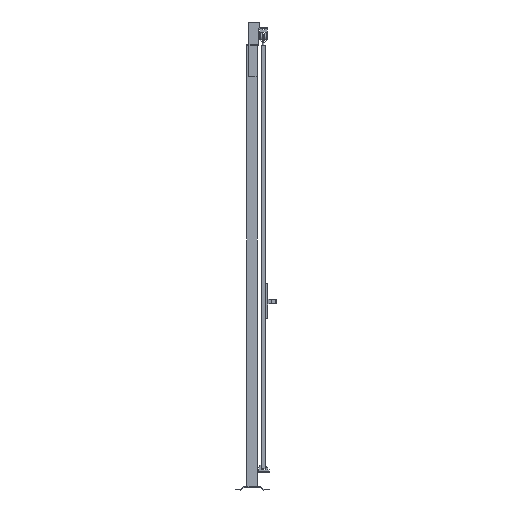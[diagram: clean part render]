
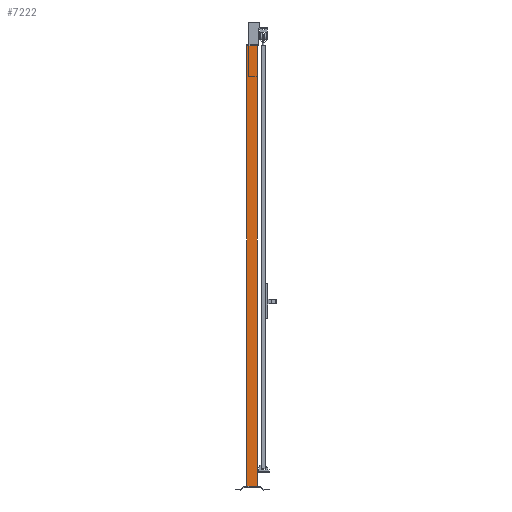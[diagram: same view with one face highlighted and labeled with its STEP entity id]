
A CAD part, left-side view. The second image highlights one B-rep face of the part: STEP entity #7222.
In plain terms, the highlighted planar face has unit normal (-1, 0, 0).
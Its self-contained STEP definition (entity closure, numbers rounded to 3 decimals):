
#584=FACE_OUTER_BOUND('',#1094,.T.);
#1094=EDGE_LOOP('',(#4245,#4246,#4247,#4248));
#1643=VERTEX_POINT('',#14447);
#1644=VERTEX_POINT('',#14449);
#1647=VERTEX_POINT('',#14456);
#1648=VERTEX_POINT('',#14458);
#2711=EDGE_CURVE('',#1643,#1644,#8187,.T.);
#2715=EDGE_CURVE('',#1647,#1648,#8191,.T.);
#2717=EDGE_CURVE('',#1644,#1647,#8193,.T.);
#2719=EDGE_CURVE('',#1643,#1648,#8195,.T.);
#4245=ORIENTED_EDGE('',*,*,#2719,.T.);
#4246=ORIENTED_EDGE('',*,*,#2715,.F.);
#4247=ORIENTED_EDGE('',*,*,#2717,.F.);
#4248=ORIENTED_EDGE('',*,*,#2711,.F.);
#6764=PLANE('',#10645);
#7222=ADVANCED_FACE('',(#584),#6764,.F.);
#8187=LINE('',#14450,#9471);
#8191=LINE('',#14459,#9475);
#8193=LINE('',#14462,#9477);
#8195=LINE('',#14465,#9479);
#9471=VECTOR('',#11560,1.);
#9475=VECTOR('',#11566,1.);
#9477=VECTOR('',#11570,1.);
#9479=VECTOR('',#11574,1.);
#10645=AXIS2_PLACEMENT_3D('',#14464,#11572,#11573);
#11560=DIRECTION('',(0.,-1.,0.));
#11566=DIRECTION('',(0.,1.,0.));
#11570=DIRECTION('',(0.,0.,-1.));
#11572=DIRECTION('center_axis',(1.,0.,0.));
#11573=DIRECTION('ref_axis',(0.,0.,-1.));
#11574=DIRECTION('',(0.,0.,-1.));
#14447=CARTESIAN_POINT('',(-30.,30.,2520.));
#14449=CARTESIAN_POINT('',(-30.,-30.,2520.));
#14450=CARTESIAN_POINT('',(-30.,0.,2520.));
#14456=CARTESIAN_POINT('',(-30.,-30.,20.));
#14458=CARTESIAN_POINT('',(-30.,30.,20.));
#14459=CARTESIAN_POINT('',(-30.,0.,20.));
#14462=CARTESIAN_POINT('',(-30.,-30.,1270.));
#14464=CARTESIAN_POINT('Origin',(-30.,0.,
1270.));
#14465=CARTESIAN_POINT('',(-30.,30.,1270.));
